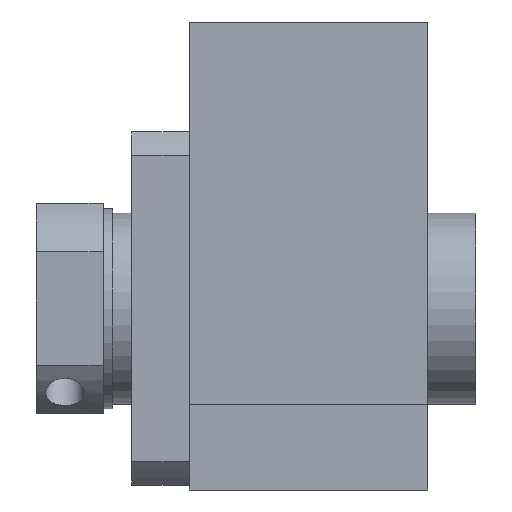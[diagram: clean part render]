
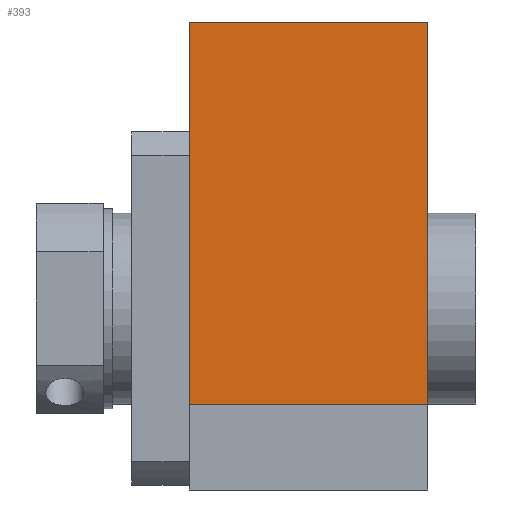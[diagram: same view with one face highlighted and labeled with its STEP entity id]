
A CAD part, front view. The second image highlights one B-rep face of the part: STEP entity #393.
In plain terms, the highlighted planar face has unit normal (0, -1, 0).
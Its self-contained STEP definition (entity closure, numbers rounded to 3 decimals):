
#129=FACE_OUTER_BOUND('',#678,.T.);
#187=LINE('',#2279,#243);
#189=LINE('',#2285,#245);
#190=LINE('',#2287,#246);
#191=LINE('',#2289,#247);
#243=VECTOR('',#1704,1.);
#245=VECTOR('',#1710,1.);
#246=VECTOR('',#1711,1.);
#247=VECTOR('',#1712,1.);
#326=PLANE('',#1395);
#393=ADVANCED_FACE('',(#129),#326,.T.);
#678=EDGE_LOOP('',(#918,#919,#920,#921));
#918=ORIENTED_EDGE('',*,*,#1190,.F.);
#919=ORIENTED_EDGE('',*,*,#1193,.T.);
#920=ORIENTED_EDGE('',*,*,#1194,.T.);
#921=ORIENTED_EDGE('',*,*,#1195,.F.);
#1063=VERTEX_POINT('',#2278);
#1064=VERTEX_POINT('',#2280);
#1066=VERTEX_POINT('',#2286);
#1067=VERTEX_POINT('',#2288);
#1190=EDGE_CURVE('LINE',#1063,#1064,#187,.T.);
#1193=EDGE_CURVE('LINE',#1063,#1066,#189,.T.);
#1194=EDGE_CURVE('LINE',#1066,#1067,#190,.T.);
#1195=EDGE_CURVE('LINE',#1064,#1067,#191,.T.);
#1395=AXIS2_PLACEMENT_3D('',#2290,#1713,#1714);
#1704=DIRECTION('',(-1.,0.,0.));
#1710=DIRECTION('',(0.,0.,1.));
#1711=DIRECTION('',(-1.,0.,0.));
#1712=DIRECTION('',(0.,0.,1.));
#1713=DIRECTION('',(0.,-1.,0.));
#1714=DIRECTION('',(0.,0.,-1.));
#2278=CARTESIAN_POINT('',(37.5,-40.,-40.));
#2279=CARTESIAN_POINT('',(25.,-40.,-40.));
#2280=CARTESIAN_POINT('',(12.5,-40.,-40.));
#2285=CARTESIAN_POINT('',(37.5,-40.,-20.));
#2286=CARTESIAN_POINT('',(37.5,-40.,0.));
#2287=CARTESIAN_POINT('',(25.,-40.,0.));
#2288=CARTESIAN_POINT('',(12.5,-40.,0.));
#2289=CARTESIAN_POINT('',(12.5,-40.,-20.));
#2290=CARTESIAN_POINT('',(25.,-40.,-40.));
